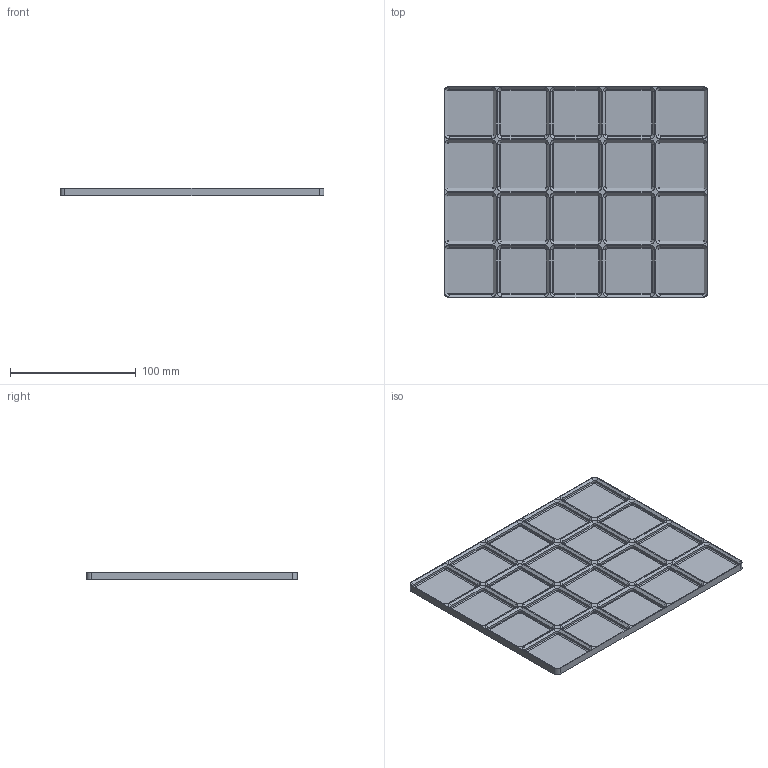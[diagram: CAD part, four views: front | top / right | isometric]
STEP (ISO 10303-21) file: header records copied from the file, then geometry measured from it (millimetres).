
FILE_DESCRIPTION(('Open CASCADE Model'),'2;1');
FILE_NAME('base','2026-11-17T16:07:47',('Author'),('Open CASCADE'), 'Open CASCADE STEP processor 8.0','build123d','Unknown');
FILE_SCHEMA(('AUTOMOTIVE_DESIGN { 1 0 10303 214 1 1 1 1 }'));
Length unit declared in the file: millimetre
Products named in the file (1): base
Bounding box: 210 x 168 x 5.8 mm (x, y, z)
Volume: 81759.4 mm3; surface area: 83195.3 mm2
Topology: 1 solids, 1 shells, 510 faces, 1144 edges, 656 vertices
Faces by surface type: plane 266, cone 160, cylinder 84
Entity records: 27242 total; most frequent: CARTESIAN_POINT 6087, DIRECTION 3334, ORIENTED_EDGE 2288, PCURVE 2288, DEFINITIONAL_REPRESENTATION 2288, LINE 1496, VECTOR 1496, B_SPLINE_CURVE_WITH_KNOTS 1440
